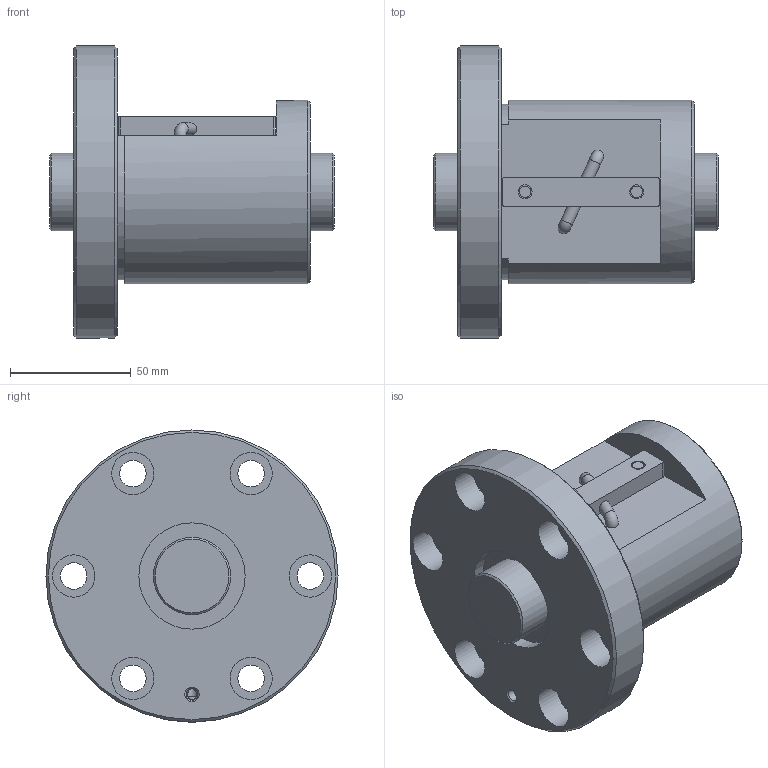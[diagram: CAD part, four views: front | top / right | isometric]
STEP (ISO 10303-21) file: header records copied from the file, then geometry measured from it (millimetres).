
FILE_DESCRIPTION(/* description */ ('STEP AP203'),/* implementation_level */ '2;1');
FILE_NAME(/* name */ 'BNF3212V-3.5RRG1+118LC0_000_rev',/* time_stamp */ '2024-08-06T08:37:56+02:00',/* author */ ('License CC BY-ND 4.0'),/* organization */ ('CADENAS'),/* preprocessor_version */ 'ST-DEVELOPER v19.3',/* originating_system */ 'PARTsolutions',/* authorisation */ ' ');
FILE_SCHEMA (('CONFIG_CONTROL_DESIGN'));
Length unit declared in the file: millimetre
Products named in the file (3): BNF3212V-3.5RRG1+118LC0_000_rev; BNF 3212-3.5RR000 Shaft; BNF 3212-3.5RR Nut
Assembly tree (2 placements, depth 2):
  BNF3212V-3.5RRG1+118LC0_000_rev
    BNF 3212-3.5RR000 Shaft
    BNF 3212-3.5RR Nut
Bounding box: 118 x 121 x 121 mm (x, y, z)
Volume: 522990 mm3; surface area: 77754.4 mm2
Topology: 2 solids, 2 shells, 69 faces, 148 edges, 96 vertices
Faces by surface type: cylinder 33, plane 27, cone 7, torus 2
Full cylindrical faces by diameter (mm): 4.5 x2, 4.8 x2, 4.917 x1, 5.065 x2, 5.8 x2, 11 x6, 17.5 x6, 32 x2, 44 x2, 76 x1, 121 x1
Entity records: 1755 total; most frequent: DIRECTION 312, CARTESIAN_POINT 296, ORIENTED_EDGE 200, AXIS2_PLACEMENT_3D 144, EDGE_LOOP 140, FACE_BOUND 140, EDGE_CURVE 100, VERTEX_POINT 86
